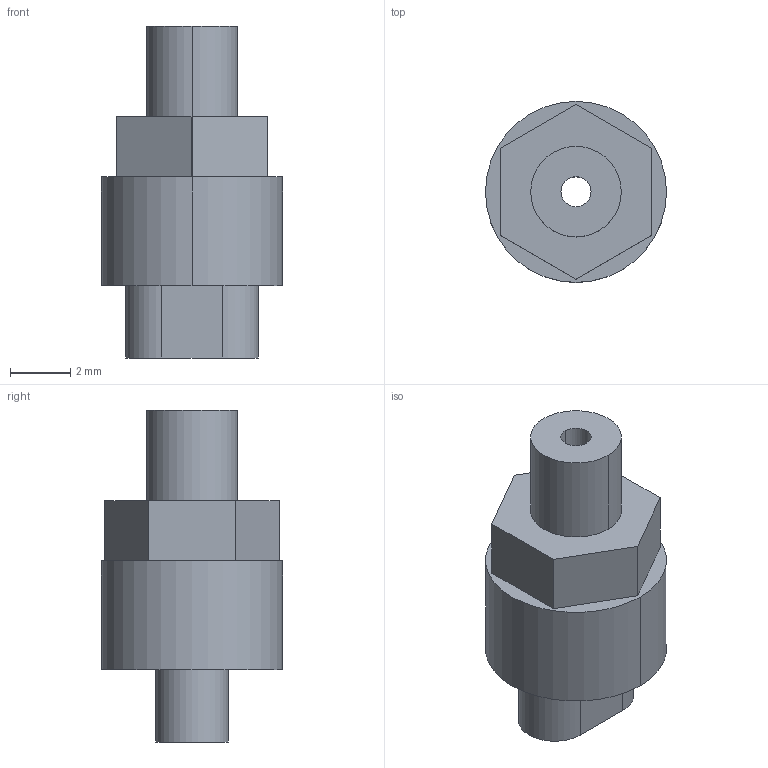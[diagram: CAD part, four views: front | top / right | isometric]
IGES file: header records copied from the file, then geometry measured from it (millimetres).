
Start section: 3D InterOp IGES (v. 2018 1.0.2), Spatial Corp. Copyright (c) 1999-2017.
Global section: file name: schmalz_10_01_01_00564_1z0ss8dtf7krtrz0497hxqo4d.igs; native system: Spatial Corp.; preprocessor: 3D InterOp ACIS/IGES; author: TraceParts; organization: TraceParts S.A.; date: 20181119.085141; units: millimetre
Bounding box: 6 x 6 x 11 mm (x, y, z)
Surface area: 265.1 mm2 (no closed solid volume)
Topology: 0 solids, 0 shells, 34 faces, 152 edges, 152 vertices
Faces by surface type: extrusion 18, revolution 16
